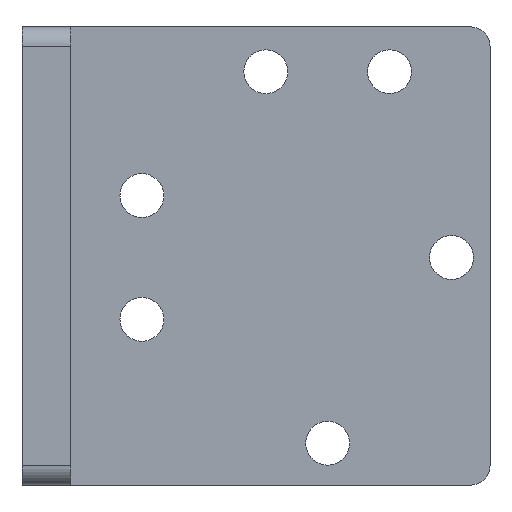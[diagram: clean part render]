
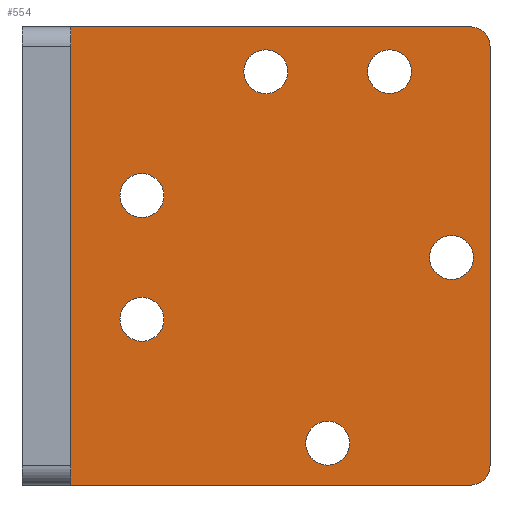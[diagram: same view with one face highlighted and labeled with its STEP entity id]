
A CAD part, left-side view. The second image highlights one B-rep face of the part: STEP entity #554.
In plain terms, the highlighted planar face has unit normal (-1, 0, 0).
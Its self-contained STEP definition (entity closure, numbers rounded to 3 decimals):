
#26=LINE('',#880,#62);
#32=LINE('',#893,#68);
#38=LINE('',#907,#74);
#44=LINE('',#920,#80);
#62=VECTOR('',#721,10.);
#68=VECTOR('',#731,10.);
#74=VECTOR('',#743,10.);
#80=VECTOR('',#755,10.);
#123=FACE_BOUND('',#207,.T.);
#124=FACE_BOUND('',#208,.T.);
#125=FACE_BOUND('',#209,.T.);
#126=FACE_BOUND('',#210,.T.);
#127=FACE_BOUND('',#211,.T.);
#128=FACE_BOUND('',#212,.T.);
#158=FACE_OUTER_BOUND('',#206,.T.);
#206=EDGE_LOOP('',(#501,#502,#503,#504,#505,#506));
#207=EDGE_LOOP('',(#507));
#208=EDGE_LOOP('',(#508));
#209=EDGE_LOOP('',(#509));
#210=EDGE_LOOP('',(#510));
#211=EDGE_LOOP('',(#511));
#212=EDGE_LOOP('',(#512));
#241=CIRCLE('',#628,2.25);
#242=CIRCLE('',#630,2.25);
#243=CIRCLE('',#632,2.25);
#244=CIRCLE('',#634,2.25);
#245=CIRCLE('',#636,2.25);
#246=CIRCLE('',#638,2.25);
#247=CIRCLE('',#640,2.);
#248=CIRCLE('',#642,2.);
#269=VERTEX_POINT('',#877);
#270=VERTEX_POINT('',#879);
#275=VERTEX_POINT('',#891);
#280=VERTEX_POINT('',#905);
#282=VERTEX_POINT('',#914);
#284=VERTEX_POINT('',#918);
#291=VERTEX_POINT('',#937);
#292=VERTEX_POINT('',#941);
#293=VERTEX_POINT('',#945);
#294=VERTEX_POINT('',#949);
#295=VERTEX_POINT('',#953);
#296=VERTEX_POINT('',#957);
#326=EDGE_CURVE('',#270,#269,#26,.T.);
#333=EDGE_CURVE('',#269,#275,#32,.T.);
#340=EDGE_CURVE('',#275,#280,#38,.T.);
#346=EDGE_CURVE('',#284,#282,#44,.T.);
#355=EDGE_CURVE('',#291,#291,#241,.T.);
#357=EDGE_CURVE('',#292,#292,#242,.T.);
#359=EDGE_CURVE('',#293,#293,#243,.T.);
#361=EDGE_CURVE('',#294,#294,#244,.T.);
#363=EDGE_CURVE('',#295,#295,#245,.T.);
#365=EDGE_CURVE('',#296,#296,#246,.T.);
#367=EDGE_CURVE('',#270,#284,#247,.T.);
#368=EDGE_CURVE('',#282,#280,#248,.T.);
#501=ORIENTED_EDGE('',*,*,#333,.T.);
#502=ORIENTED_EDGE('',*,*,#340,.T.);
#503=ORIENTED_EDGE('',*,*,#368,.F.);
#504=ORIENTED_EDGE('',*,*,#346,.F.);
#505=ORIENTED_EDGE('',*,*,#367,.F.);
#506=ORIENTED_EDGE('',*,*,#326,.T.);
#507=ORIENTED_EDGE('',*,*,#355,.T.);
#508=ORIENTED_EDGE('',*,*,#357,.T.);
#509=ORIENTED_EDGE('',*,*,#359,.T.);
#510=ORIENTED_EDGE('',*,*,#361,.T.);
#511=ORIENTED_EDGE('',*,*,#363,.T.);
#512=ORIENTED_EDGE('',*,*,#365,.T.);
#524=PLANE('',#643);
#554=ADVANCED_FACE('',(#158,#123,#124,#125,#126,#127,#128),#524,.F.);
#628=AXIS2_PLACEMENT_3D('',#938,#776,#777);
#630=AXIS2_PLACEMENT_3D('',#942,#781,#782);
#632=AXIS2_PLACEMENT_3D('',#946,#786,#787);
#634=AXIS2_PLACEMENT_3D('',#950,#791,#792);
#636=AXIS2_PLACEMENT_3D('',#954,#796,#797);
#638=AXIS2_PLACEMENT_3D('',#958,#801,#802);
#640=AXIS2_PLACEMENT_3D('',#961,#806,#807);
#642=AXIS2_PLACEMENT_3D('',#963,#810,#811);
#643=AXIS2_PLACEMENT_3D('',#964,#812,#813);
#721=DIRECTION('',(0.,1.,0.));
#731=DIRECTION('',(0.,0.,-1.));
#743=DIRECTION('',(0.,-1.,0.));
#755=DIRECTION('',(0.,0.,-1.));
#776=DIRECTION('center_axis',(1.,0.,0.));
#777=DIRECTION('ref_axis',(0.,0.,1.));
#781=DIRECTION('center_axis',(1.,0.,0.));
#782=DIRECTION('ref_axis',(0.,0.,1.));
#786=DIRECTION('center_axis',(1.,0.,0.));
#787=DIRECTION('ref_axis',(0.,0.,1.));
#791=DIRECTION('center_axis',(1.,0.,0.));
#792=DIRECTION('ref_axis',(0.,0.,1.));
#796=DIRECTION('center_axis',(1.,0.,0.));
#797=DIRECTION('ref_axis',(0.,0.,1.));
#801=DIRECTION('center_axis',(1.,0.,0.));
#802=DIRECTION('ref_axis',(0.,0.,1.));
#806=DIRECTION('center_axis',(1.,0.,0.));
#807=DIRECTION('ref_axis',(0.,-0.707,0.707));
#810=DIRECTION('center_axis',(1.,0.,0.));
#811=DIRECTION('ref_axis',(0.,-0.707,-0.707));
#812=DIRECTION('center_axis',(1.,0.,0.));
#813=DIRECTION('ref_axis',(0.,0.,1.));
#877=CARTESIAN_POINT('',(30.,-1.,-6.));
#879=CARTESIAN_POINT('',(30.,-42.,-6.));
#880=CARTESIAN_POINT('',(30.,2.5,-6.));
#891=CARTESIAN_POINT('',(30.,-1.,-53.));
#893=CARTESIAN_POINT('',(30.,-1.,-56.));
#905=CARTESIAN_POINT('',(30.,-42.,-53.));
#907=CARTESIAN_POINT('',(30.,-19.5,-53.));
#914=CARTESIAN_POINT('',(30.,-44.,-51.));
#918=CARTESIAN_POINT('',(30.,-44.,-8.));
#920=CARTESIAN_POINT('',(30.,-44.,0.));
#937=CARTESIAN_POINT('',(30.,-8.3,-25.55));
#938=CARTESIAN_POINT('Origin',(30.,-8.3,-23.3));
#941=CARTESIAN_POINT('',(30.,-8.3,-38.25));
#942=CARTESIAN_POINT('Origin',(30.,-8.3,-36.));
#945=CARTESIAN_POINT('',(30.,-21.,-12.85));
#946=CARTESIAN_POINT('Origin',(30.,-21.,-10.6));
#949=CARTESIAN_POINT('',(30.,-33.7,-12.85));
#950=CARTESIAN_POINT('Origin',(30.,-33.7,-10.6));
#953=CARTESIAN_POINT('',(30.,-27.35,-50.95));
#954=CARTESIAN_POINT('Origin',(30.,-27.35,-48.7));
#957=CARTESIAN_POINT('',(30.,-40.05,-31.9));
#958=CARTESIAN_POINT('Origin',(30.,-40.05,-29.65));
#961=CARTESIAN_POINT('Origin',(30.,-42.,-8.));
#963=CARTESIAN_POINT('Origin',(30.,-42.,-51.));
#964=CARTESIAN_POINT('Origin',(30.,5.,-59.));
